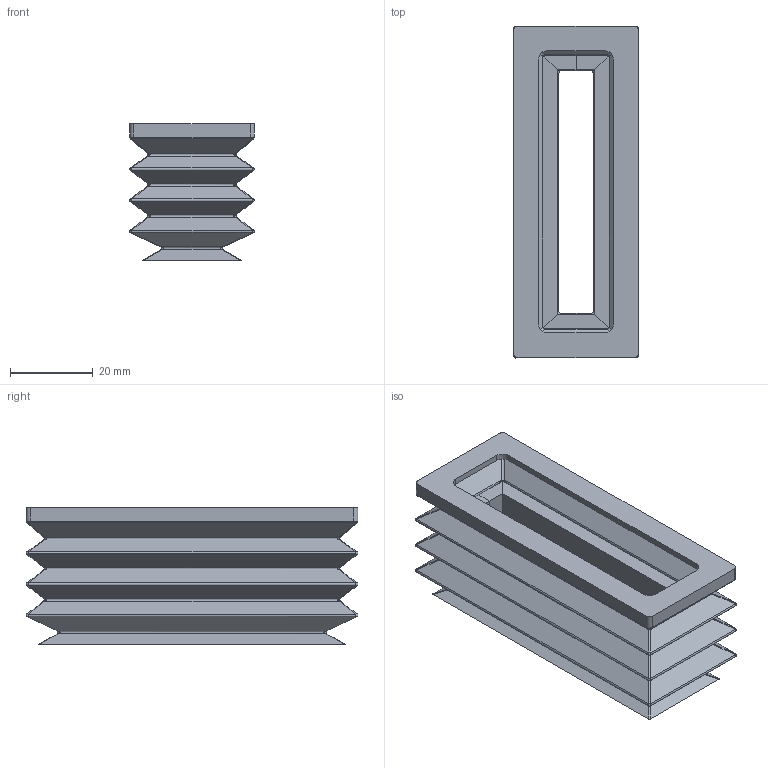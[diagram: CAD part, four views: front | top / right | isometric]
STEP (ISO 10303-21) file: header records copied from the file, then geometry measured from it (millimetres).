
FILE_DESCRIPTION (( 'STEP AP214' ), '1' );
FILE_NAME ('35RB.803033.02.STEP', '2024-08-13T15:28:41', ( '' ), ( '' ), 'SwSTEP 2.0', 'SolidWorks 2018', '' );
FILE_SCHEMA (( 'AUTOMOTIVE_DESIGN' ));
Length unit declared in the file: millimetre
Products named in the file (1): 35RB.803033.02
Bounding box: 30 x 80 x 33 mm (x, y, z)
Volume: 36655.4 mm3; surface area: 19121.3 mm2
Topology: 1 solids, 1 shells, 242 faces, 528 edges, 277 vertices
Faces by surface type: cylinder 113, plane 65, bspline 64
Entity records: 11560 total; most frequent: CARTESIAN_POINT 7016, ORIENTED_EDGE 1032, DIRECTION 730, EDGE_CURVE 516, VERTEX_POINT 277, VECTOR 246, LINE 246, EDGE_LOOP 245
